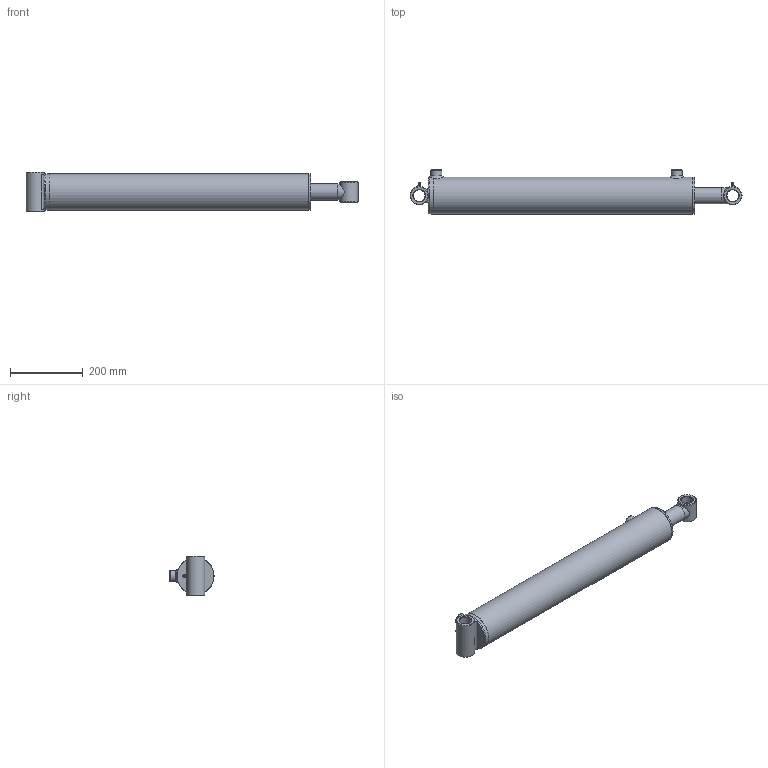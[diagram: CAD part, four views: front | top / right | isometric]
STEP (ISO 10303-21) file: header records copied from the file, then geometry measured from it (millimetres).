
FILE_DESCRIPTION(/* description */ (''),/* implementation_level */ '2;1');
FILE_NAME(/* name */ 'C:\01 - Philip\00 - Philip Rivard\01 - Contracts\Eagle Hydraulic Components\00 - 3D Cylinder\HBU3524\HBU3524.stp',/* time_stamp */ '2015-06-21T20:58:56-04:00',/* author */ ('Philip'),/* organization */ (''),/* preprocessor_version */ 'ST-DEVELOPER v16.1',/* originating_system */ 'Autodesk Inventor 2016',/* authorisation */ '');
FILE_SCHEMA (('AUTOMOTIVE_DESIGN { 1 0 10303 214 3 1 1 }'));
Length unit declared in the file: inch
Products named in the file (13): Tube_Welding_Welds; Tube; ECP-35-HBU; Straight_Port; Tube_Welding; Rod_Assembly_Welds; Rod; Bushing; Rod_Assembly; Gland; Grease Fitting 1-8; 908; HBU3524
Assembly tree (15 placements, depth 3):
  HBU3524
    Tube_Welding
      Tube_Welding_Welds
      Tube
      ECP-35-HBU
      Straight_Port  x2
    Rod_Assembly
      Rod_Assembly_Welds
      Rod
      Bushing
    Gland
    Grease Fitting 1-8  x2
    908  x2
Bounding box: 914.4 x 121.6 x 108 mm (x, y, z)
Volume: 3141993.2 mm3; surface area: 667737.8 mm2
Topology: 14 solids, 14 shells, 206 faces, 446 edges, 270 vertices
Faces by surface type: cone 65, plane 59, cylinder 52, torus 17, bspline 11, sphere 2
Full cylindrical faces by diameter (mm): 4 x2, 5 x1, 7.95 x2, 8 x2, 10 x4, 17.323 x2, 30 x5, 32 x4, 32.6 x2, 44.45 x2, 44.5 x1, 50.8 x2, 57.15 x1, 82 x1, 88.646 x1, 88.85 x1, 88.9 x1, 90 x1, 93 x2, 94 x2, 101 x1, 101.6 x1
Entity records: 6760 total; most frequent: CARTESIAN_POINT 3398, DIRECTION 666, ORIENTED_EDGE 512, AXIS2_PLACEMENT_3D 310, EDGE_LOOP 280, EDGE_CURVE 254, VERTEX_POINT 198, ADVANCED_FACE 165
